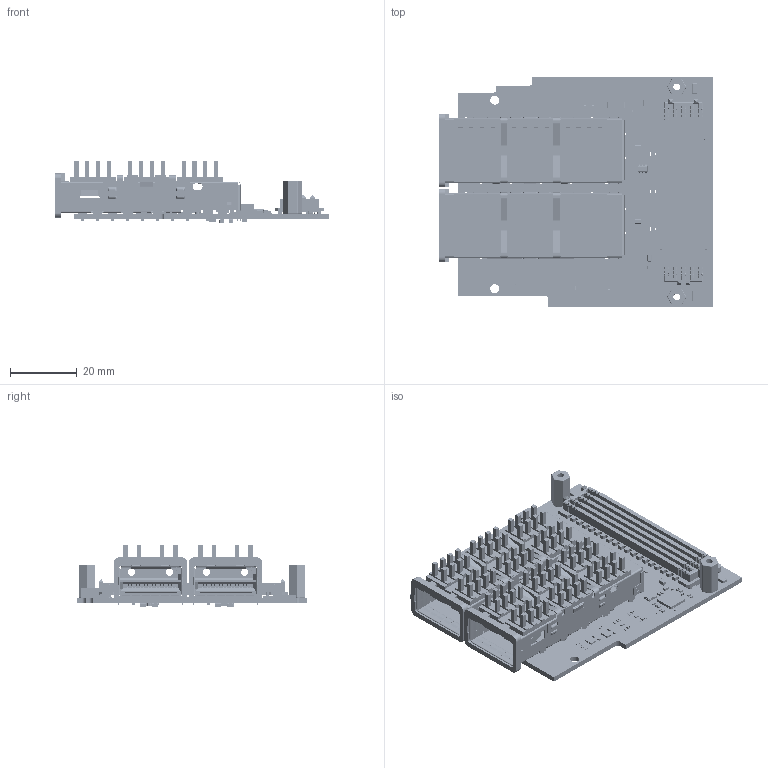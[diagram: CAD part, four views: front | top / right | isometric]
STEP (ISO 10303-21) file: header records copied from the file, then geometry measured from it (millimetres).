
FILE_DESCRIPTION(('Open CASCADE Model'),'2;1');
FILE_NAME('Open CASCADE Shape Model','2025-03-11T17:00:35',('Author'),( 'Open CASCADE'),'Open CASCADE STEP processor 7.5','Open CASCADE 7.5' ,'Unknown');
FILE_SCHEMA(('AUTOMOTIVE_DESIGN { 1 0 10303 214 1 1 1 1 }'));
Length unit declared in the file: millimetre
Products named in the file (158): PCB; Board; Open CASCADE STEP translator 7.5 1.1.1; U8; 7079207664; Extruded; U2; R32; SW3dPS-0402 SMD Resistor; R31; R30; R24; R23; R20; R19; R18; C49; User Library-CAPC_0402; User Library-CAPC_0402_CAPC_0402_Lead_1; User Library-CAPC_0402_CAPC_0402_Body_1; C48; C39; C20; U1; 7035452720; R11; R10; R9; R8; L7; 1608-Chip Inductor; L6; L5; L4; L3; L2; J5; 1551892-2; J4; J3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
Assembly tree (368 placements, depth 4):
  PCB
    Board
      Open CASCADE STEP translator 7.5 1.1.1
    U8
      7079207664
        Extruded
    U2
      7079207664
        Extruded
    R32
      SW3dPS-0402 SMD Resistor
    R31
      SW3dPS-0402 SMD Resistor
    R30
      SW3dPS-0402 SMD Resistor
    R24
      SW3dPS-0402 SMD Resistor
    R23
      SW3dPS-0402 SMD Resistor
    R20
      SW3dPS-0402 SMD Resistor
    R19
      SW3dPS-0402 SMD Resistor
    R18
      SW3dPS-0402 SMD Resistor
    C49
      User Library-CAPC_0402
        User Library-CAPC_0402_CAPC_0402_Lead_1  x2
        User Library-CAPC_0402_CAPC_0402_Body_1
    C48
      User Library-CAPC_0402
        User Library-CAPC_0402_CAPC_0402_Lead_1  x2
        User Library-CAPC_0402_CAPC_0402_Body_1
    C39
      User Library-CAPC_0402
        User Library-CAPC_0402_CAPC_0402_Lead_1  x2
        User Library-CAPC_0402_CAPC_0402_Body_1
    C20
      User Library-CAPC_0402
        User Library-CAPC_0402_CAPC_0402_Lead_1  x2
        User Library-CAPC_0402_CAPC_0402_Body_1
    U1
      7035452720
    R11
      SW3dPS-0402 SMD Resistor
    R10
      SW3dPS-0402 SMD Resistor
    R9
      SW3dPS-0402 SMD Resistor
    R8
      SW3dPS-0402 SMD Resistor
    L7
      1608-Chip Inductor
    L6
      1608-Chip Inductor
    L5
      1608-Chip Inductor
    L4
      1608-Chip Inductor
    L3
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Bounding box: 82.27 x 69 x 18.87 mm (x, y, z)
Volume: 17629.5 mm3; surface area: 36782.7 mm2
Topology: 521 solids, 522 shells, 19623 faces, 49903 edges, 30998 vertices
Faces by surface type: plane 11716, cylinder 4458, bspline 1983, sphere 602, torus 512, cone 352
Full cylindrical faces by diameter (mm): 1.05 x24, 1.3 x2, 1.6 x4, 1.75 x3, 2.7 x4
Entity records: 312670 total; most frequent: CARTESIAN_POINT 68497, ORIENTED_EDGE 50156, DIRECTION 48821, EDGE_CURVE 25078, LINE 18471, VECTOR 18471, VERTEX_POINT 15842, AXIS2_PLACEMENT_3D 15175
